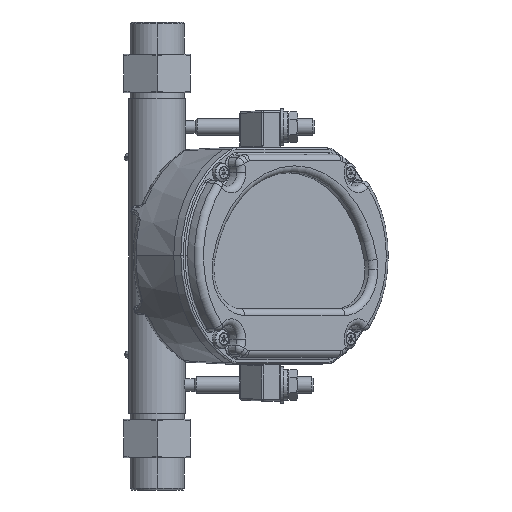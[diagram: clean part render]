
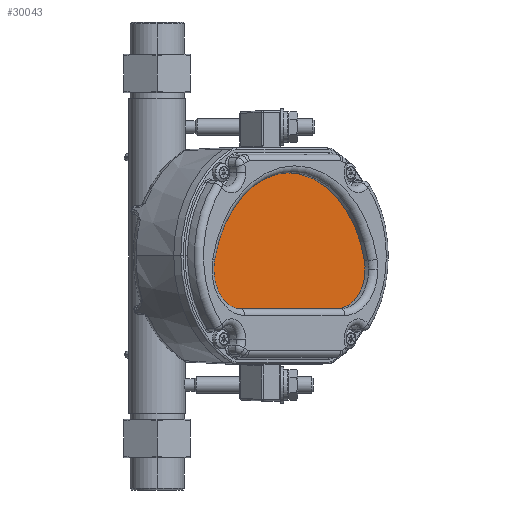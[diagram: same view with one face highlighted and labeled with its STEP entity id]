
A CAD part, front view. The second image highlights one B-rep face of the part: STEP entity #30043.
In plain terms, the highlighted planar face has unit normal (0.707, -0.707, 0).
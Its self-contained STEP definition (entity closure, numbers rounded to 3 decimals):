
#511 = ORIENTED_EDGE ( 'NONE', *, *, #79630, .T. ) ;
#854 = CARTESIAN_POINT ( 'NONE',  ( 62.422, -2.083, 83.16 ) ) ;
#1589 = AXIS2_PLACEMENT_3D ( 'NONE', #51272, #52139, #72202 ) ;
#2394 = AXIS2_PLACEMENT_3D ( 'NONE', #36744, #3623, #70775 ) ;
#3623 = DIRECTION ( 'NONE',  ( 0.707, -0.707, 0. ) ) ;
#3822 = CIRCLE ( 'NONE', #2394, 26.67 ) ;
#3891 = CARTESIAN_POINT ( 'NONE',  ( 84.919, 20.415, 62.53 ) ) ;
#4094 = VERTEX_POINT ( 'NONE', #67747 ) ;
#4291 = EDGE_CURVE ( 'NONE', #69935, #26735, #11474, .T. ) ;
#7438 = ORIENTED_EDGE ( 'NONE', *, *, #17280, .T. ) ;
#9469 = EDGE_CURVE ( 'NONE', #78777, #22780, #16399, .T. ) ;
#9975 = DIRECTION ( 'NONE',  ( -0.707, -0.707, 0. ) ) ;
#11474 = LINE ( 'NONE', #32369, #81505 ) ;
#13799 = VECTOR ( 'NONE', #9975, 1000. ) ;
#15584 = CIRCLE ( 'NONE', #16964, 26.67 ) ;
#15921 = AXIS2_PLACEMENT_3D ( 'NONE', #37968, #44080, #51068 ) ;
#16399 = CIRCLE ( 'NONE', #40037, 26.67 ) ;
#16964 = AXIS2_PLACEMENT_3D ( 'NONE', #64268, #22851, #77360 ) ;
#16993 = ORIENTED_EDGE ( 'NONE', *, *, #71028, .T. ) ;
#17280 = EDGE_CURVE ( 'NONE', #4094, #23579, #68835, .T. ) ;
#21718 = CARTESIAN_POINT ( 'NONE',  ( 21.065, -43.439, 89.2 ) ) ;
#21751 = ORIENTED_EDGE ( 'NONE', *, *, #4291, .T. ) ;
#22780 = VERTEX_POINT ( 'NONE', #21718 ) ;
#22851 = DIRECTION ( 'NONE',  ( 0.707, -0.707, 0. ) ) ;
#23579 = VERTEX_POINT ( 'NONE', #72081 ) ;
#25528 = FACE_OUTER_BOUND ( 'NONE', #58268, .T. ) ;
#26735 = VERTEX_POINT ( 'NONE', #3891 ) ;
#27432 = DIRECTION ( 'NONE',  ( 0.707, -0.707, 0. ) ) ;
#27670 = ORIENTED_EDGE ( 'NONE', *, *, #73209, .T. ) ;
#29250 = CARTESIAN_POINT ( 'NONE',  ( 39.924, -24.581, 62.53 ) ) ;
#30043 = ADVANCED_FACE ( 'NONE', ( #25528 ), #78767, .T. ) ;
#31578 = CIRCLE ( 'NONE', #39914, 59.055 ) ;
#32369 = CARTESIAN_POINT ( 'NONE',  ( 39.924, -24.581, 62.53 ) ) ;
#36744 = CARTESIAN_POINT ( 'NONE',  ( 84.919, 20.415, 89.2 ) ) ;
#37968 = CARTESIAN_POINT ( 'NONE',  ( 62.422, -2.083, 83.16 ) ) ;
#39914 = AXIS2_PLACEMENT_3D ( 'NONE', #854, #27432, #54049 ) ;
#40037 = AXIS2_PLACEMENT_3D ( 'NONE', #54332, #62143, #80960 ) ;
#40784 = CARTESIAN_POINT ( 'NONE',  ( 21.396, -43.108, 94.174 ) ) ;
#44080 = DIRECTION ( 'NONE',  ( 0.707, -0.707, 0. ) ) ;
#46045 = VERTEX_POINT ( 'NONE', #58922 ) ;
#51068 = DIRECTION ( 'NONE',  ( 0.707, 0.707, 0. ) ) ;
#51137 = DIRECTION ( 'NONE',  ( 0.707, 0.707, 0. ) ) ;
#51272 = CARTESIAN_POINT ( 'NONE',  ( 62.422, -2.083, 83.16 ) ) ;
#52139 = DIRECTION ( 'NONE',  ( 0.707, -0.707, 0. ) ) ;
#54049 = DIRECTION ( 'NONE',  ( 0.707, 0.707, 0. ) ) ;
#54332 = CARTESIAN_POINT ( 'NONE',  ( 39.924, -24.581, 89.2 ) ) ;
#56327 = CIRCLE ( 'NONE', #15921, 59.055 ) ;
#56879 = ORIENTED_EDGE ( 'NONE', *, *, #70420, .T. ) ;
#58268 = EDGE_LOOP ( 'NONE', ( #56879, #85229, #511, #21751, #16993, #27670, #7438 ) ) ;
#58922 = CARTESIAN_POINT ( 'NONE',  ( 103.447, 38.942, 94.174 ) ) ;
#62143 = DIRECTION ( 'NONE',  ( 0.707, -0.707, 0. ) ) ;
#64268 = CARTESIAN_POINT ( 'NONE',  ( 39.924, -24.581, 89.2 ) ) ;
#67747 = CARTESIAN_POINT ( 'NONE',  ( 73.751, 9.246, 140. ) ) ;
#68835 = LINE ( 'NONE', #69714, #13799 ) ;
#69714 = CARTESIAN_POINT ( 'NONE',  ( 73.751, 9.246, 140. ) ) ;
#69935 = VERTEX_POINT ( 'NONE', #29250 ) ;
#70420 = EDGE_CURVE ( 'NONE', #23579, #78777, #31578, .T. ) ;
#70775 = DIRECTION ( 'NONE',  ( 0.707, 0.707, 0. ) ) ;
#71028 = EDGE_CURVE ( 'NONE', #26735, #46045, #3822, .T. ) ;
#72081 = CARTESIAN_POINT ( 'NONE',  ( 51.093, -13.412, 140. ) ) ;
#72202 = DIRECTION ( 'NONE',  ( 0., 0., -1. ) ) ;
#73209 = EDGE_CURVE ( 'NONE', #46045, #4094, #56327, .T. ) ;
#77360 = DIRECTION ( 'NONE',  ( 0.707, 0.707, 0. ) ) ;
#78767 = PLANE ( 'NONE',  #1589 ) ;
#78777 = VERTEX_POINT ( 'NONE', #40784 ) ;
#79630 = EDGE_CURVE ( 'NONE', #22780, #69935, #15584, .T. ) ;
#80960 = DIRECTION ( 'NONE',  ( 0.707, 0.707, 0. ) ) ;
#81505 = VECTOR ( 'NONE', #51137, 1000. ) ;
#85229 = ORIENTED_EDGE ( 'NONE', *, *, #9469, .T. ) ;
